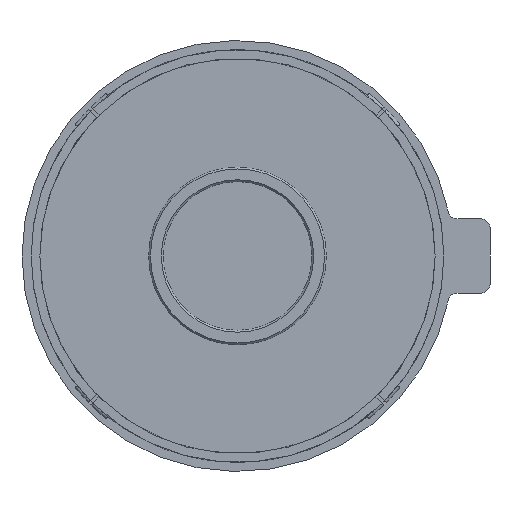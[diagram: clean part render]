
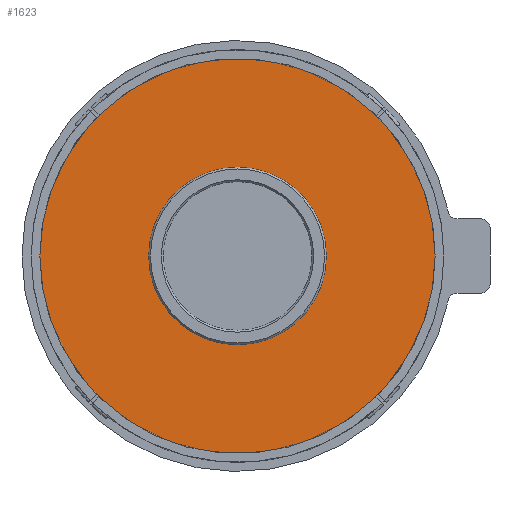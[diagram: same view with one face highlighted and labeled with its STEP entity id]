
A CAD part, front view. The second image highlights one B-rep face of the part: STEP entity #1623.
In plain terms, the highlighted planar face has unit normal (0, -1, 0).
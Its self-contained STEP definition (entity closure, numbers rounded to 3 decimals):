
#353=CARTESIAN_POINT('',(0.,0.,0.));
#354=DIRECTION('',(0.,-1.,0.));
#355=DIRECTION('',(1.,0.,0.));
#356=AXIS2_PLACEMENT_3D('',#353,#354,#355);
#358=CARTESIAN_POINT('',(0.,0.,0.));
#359=DIRECTION('',(0.,-1.,0.));
#360=DIRECTION('',(-1.,0.,0.));
#361=AXIS2_PLACEMENT_3D('',#358,#359,#360);
#373=CARTESIAN_POINT('',(0.,0.,0.));
#374=DIRECTION('',(0.,-1.,0.));
#375=DIRECTION('',(-1.,0.,0.));
#376=AXIS2_PLACEMENT_3D('',#373,#374,#375);
#378=CARTESIAN_POINT('',(0.,0.,0.));
#379=DIRECTION('',(0.,-1.,0.));
#380=DIRECTION('',(1.,0.,0.));
#381=AXIS2_PLACEMENT_3D('',#378,#379,#380);
#1340=CARTESIAN_POINT('',(45.4,0.,0.));
#1341=CARTESIAN_POINT('',(-45.4,0.,0.));
#1342=VERTEX_POINT('',#1340);
#1343=VERTEX_POINT('',#1341);
#1536=CARTESIAN_POINT('',(-20.4,0.,0.));
#1537=CARTESIAN_POINT('',(20.4,0.,0.));
#1538=VERTEX_POINT('',#1536);
#1539=VERTEX_POINT('',#1537);
#1606=CARTESIAN_POINT('',(0.,0.,0.));
#1607=DIRECTION('',(0.,1.,0.));
#1608=DIRECTION('',(1.,0.,0.));
#1609=AXIS2_PLACEMENT_3D('',#1606,#1607,#1608);
#1610=PLANE('',#1609);
#1612=ORIENTED_EDGE('',*,*,#1611,.F.);
#1614=ORIENTED_EDGE('',*,*,#1613,.F.);
#1615=EDGE_LOOP('',(#1612,#1614));
#1616=FACE_OUTER_BOUND('',#1615,.F.);
#1618=ORIENTED_EDGE('',*,*,#1617,.T.);
#1620=ORIENTED_EDGE('',*,*,#1619,.T.);
#1621=EDGE_LOOP('',(#1618,#1620));
#1622=FACE_BOUND('',#1621,.F.);
#1623=ADVANCED_FACE('',(#1616,#1622),#1610,.F.);
#357=CIRCLE('',#356,45.4);
#362=CIRCLE('',#361,45.4);
#377=CIRCLE('',#376,20.4);
#382=CIRCLE('',#381,20.4);
#1611=EDGE_CURVE('',#1342,#1343,#357,.T.);
#1613=EDGE_CURVE('',#1343,#1342,#362,.T.);
#1617=EDGE_CURVE('',#1538,#1539,#377,.T.);
#1619=EDGE_CURVE('',#1539,#1538,#382,.T.);
